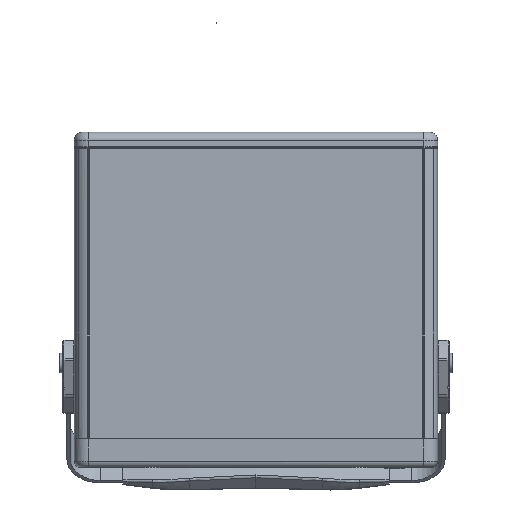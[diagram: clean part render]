
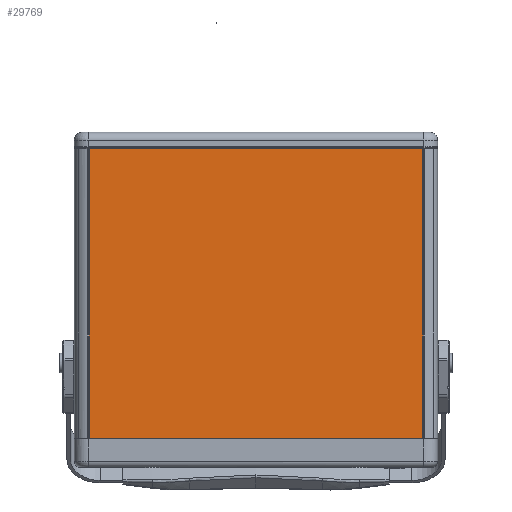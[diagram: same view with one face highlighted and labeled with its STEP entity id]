
A CAD part, top view. The second image highlights one B-rep face of the part: STEP entity #29769.
In plain terms, the highlighted planar face has unit normal (0, 0, 1).
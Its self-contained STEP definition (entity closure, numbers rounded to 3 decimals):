
#42 = VERTEX_POINT ( 'NONE', #312976 ) ;
#548 = VERTEX_POINT ( 'NONE', #472368 ) ;
#22419 = CARTESIAN_POINT ( 'NONE',  ( 156.329, -192.845, 22.775 ) ) ;
#29769 = ADVANCED_FACE ( 'NONE', ( #370707 ), #154628, .T. ) ;
#36747 = B_SPLINE_CURVE_WITH_KNOTS ( 'NONE', 3,
 ( #283300, #204286, #276224, #163571 ),
 .UNSPECIFIED., .F., .F.,
 ( 4, 4 ),
 ( 0., 1. ),
 .UNSPECIFIED. ) ;
#49026 = ORIENTED_EDGE ( 'NONE', *, *, #148319, .T. ) ;
#52364 = CARTESIAN_POINT ( 'NONE',  ( 155.929, -144.845, 22.775 ) ) ;
#58389 = DIRECTION ( 'NONE',  ( 1., 0., 0. ) ) ;
#84016 = EDGE_CURVE ( 'NONE', #42, #548, #36747, .T. ) ;
#90727 = CARTESIAN_POINT ( 'NONE',  ( 155.929, -95.845, 22.775 ) ) ;
#140650 = DIRECTION ( 'NONE',  ( -1., 0., 0. ) ) ;
#148319 = EDGE_CURVE ( 'NONE', #548, #207387, #175667, .T. ) ;
#153790 = EDGE_LOOP ( 'NONE', ( #49026, #467206, #301315, #278422 ) ) ;
#154628 = PLANE ( 'NONE',  #211258 ) ;
#163571 = CARTESIAN_POINT ( 'NONE',  ( 155.929, -193.845, 22.775 ) ) ;
#175667 = B_SPLINE_CURVE_WITH_KNOTS ( 'NONE', 3,
 ( #458100, #52364, #90727, #378836 ),
 .UNSPECIFIED., .F., .F.,
 ( 4, 4 ),
 ( 0., 0.705 ),
 .UNSPECIFIED. ) ;
#182776 = CARTESIAN_POINT ( 'NONE',  ( -13.329, -46.845, 22.775 ) ) ;
#188485 = LINE ( 'NONE', #469656, #206171 ) ;
#204286 = CARTESIAN_POINT ( 'NONE',  ( 43.09, -193.845, 22.775 ) ) ;
#206171 = VECTOR ( 'NONE', #140650, 1000. ) ;
#207171 = EDGE_CURVE ( 'NONE', #207387, #453552, #188485, .T. ) ;
#207387 = VERTEX_POINT ( 'NONE', #279329 ) ;
#211258 = AXIS2_PLACEMENT_3D ( 'NONE', #22419, #269670, #58389 ) ;
#240696 = B_SPLINE_CURVE_WITH_KNOTS ( 'NONE', 3,
 ( #182776, #473360, #365213, #259445 ),
 .UNSPECIFIED., .F., .F.,
 ( 4, 4 ),
 ( 0.295, 1. ),
 .UNSPECIFIED. ) ;
#259445 = CARTESIAN_POINT ( 'NONE',  ( -13.329, -193.845, 22.775 ) ) ;
#269670 = DIRECTION ( 'NONE',  ( 0., 0., 1. ) ) ;
#276224 = CARTESIAN_POINT ( 'NONE',  ( 99.51, -193.845, 22.775 ) ) ;
#278422 = ORIENTED_EDGE ( 'NONE', *, *, #84016, .T. ) ;
#279329 = CARTESIAN_POINT ( 'NONE',  ( 155.929, -46.845, 22.775 ) ) ;
#283300 = CARTESIAN_POINT ( 'NONE',  ( -13.329, -193.845, 22.775 ) ) ;
#301315 = ORIENTED_EDGE ( 'NONE', *, *, #440356, .T. ) ;
#312976 = CARTESIAN_POINT ( 'NONE',  ( -13.329, -193.845, 22.775 ) ) ;
#365213 = CARTESIAN_POINT ( 'NONE',  ( -13.329, -144.845, 22.775 ) ) ;
#370707 = FACE_OUTER_BOUND ( 'NONE', #153790, .T. ) ;
#378836 = CARTESIAN_POINT ( 'NONE',  ( 155.929, -46.845, 22.775 ) ) ;
#387685 = CARTESIAN_POINT ( 'NONE',  ( -13.329, -46.845, 22.775 ) ) ;
#440356 = EDGE_CURVE ( 'NONE', #453552, #42, #240696, .T. ) ;
#453552 = VERTEX_POINT ( 'NONE', #387685 ) ;
#458100 = CARTESIAN_POINT ( 'NONE',  ( 155.929, -193.845, 22.775 ) ) ;
#467206 = ORIENTED_EDGE ( 'NONE', *, *, #207171, .T. ) ;
#469656 = CARTESIAN_POINT ( 'NONE',  ( 156.329, -46.845, 22.775 ) ) ;
#472368 = CARTESIAN_POINT ( 'NONE',  ( 155.929, -193.845, 22.775 ) ) ;
#473360 = CARTESIAN_POINT ( 'NONE',  ( -13.329, -95.845, 22.775 ) ) ;
